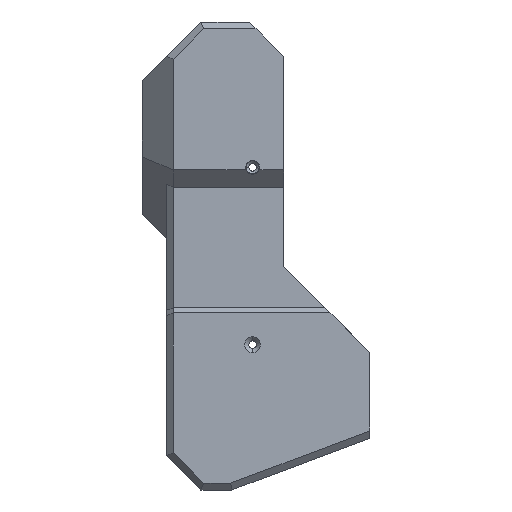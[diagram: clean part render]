
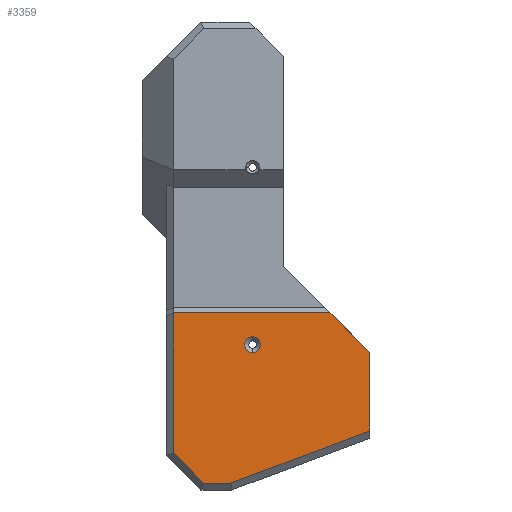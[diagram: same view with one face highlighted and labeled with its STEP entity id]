
A CAD part, left-side view. The second image highlights one B-rep face of the part: STEP entity #3359.
In plain terms, the highlighted planar face has unit normal (-1, 0, 0).
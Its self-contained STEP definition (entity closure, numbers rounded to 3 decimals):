
#851=DIRECTION('',(0.,-0.707,-0.707));
#852=VECTOR('',#851,16.263);
#853=CARTESIAN_POINT('',(-25.5,-30.5,-16.5));
#854=LINE('',#853,#852);
#855=DIRECTION('',(0.,-0.936,0.351));
#856=VECTOR('',#855,43.107);
#857=CARTESIAN_POINT('',(-25.5,-1.637,-66.));
#858=LINE('',#857,#856);
#859=DIRECTION('',(0.,1.,0.));
#860=VECTOR('',#859,7.809);
#861=CARTESIAN_POINT('',(-25.5,-1.637,-66.));
#862=LINE('',#861,#860);
#863=DIRECTION('',(0.,0.707,0.707));
#864=VECTOR('',#863,12.485);
#865=CARTESIAN_POINT('',(-25.5,6.172,-66.));
#866=LINE('',#865,#864);
#867=DIRECTION('',(0.,0.,1.));
#868=VECTOR('',#867,40.672);
#869=CARTESIAN_POINT('',(-25.5,15.,-57.172));
#870=LINE('',#869,#868);
#871=DIRECTION('',(0.,-1.,0.));
#872=VECTOR('',#871,45.5);
#873=CARTESIAN_POINT('',(-25.5,15.,-16.5));
#874=LINE('',#873,#872);
#875=CARTESIAN_POINT('',(-25.5,-8.,-25.78));
#876=DIRECTION('',(1.,0.,0.));
#877=DIRECTION('',(0.,0.,1.));
#878=AXIS2_PLACEMENT_3D('',#875,#876,#877);
#880=CARTESIAN_POINT('',(-25.5,-8.,-25.78));
#881=DIRECTION('',(1.,0.,0.));
#882=DIRECTION('',(0.,0.,-1.));
#883=AXIS2_PLACEMENT_3D('',#880,#881,#882);
#913=DIRECTION('',(0.,0.,-1.));
#914=VECTOR('',#913,22.864);
#915=CARTESIAN_POINT('',(-25.5,-42.,-28.));
#916=LINE('',#915,#914);
#1677=CARTESIAN_POINT('',(-25.5,15.,-16.5));
#1678=VERTEX_POINT('',#1677);
#1681=CARTESIAN_POINT('',(-25.5,15.,-57.172));
#1682=VERTEX_POINT('',#1681);
#1781=CARTESIAN_POINT('',(-25.5,-42.,-50.864));
#1783=VERTEX_POINT('',#1781);
#1787=CARTESIAN_POINT('',(-25.5,-1.637,-66.));
#1788=VERTEX_POINT('',#1787);
#1790=CARTESIAN_POINT('',(-25.5,6.172,-66.));
#1792=VERTEX_POINT('',#1790);
#1829=CARTESIAN_POINT('',(-25.5,-30.5,-16.5));
#1831=VERTEX_POINT('',#1829);
#1835=CARTESIAN_POINT('',(-25.5,-42.,-28.));
#1836=VERTEX_POINT('',#1835);
#2043=CARTESIAN_POINT('',(-25.5,-8.,-23.48));
#2044=CARTESIAN_POINT('',(-25.5,-8.,-28.08));
#2045=VERTEX_POINT('',#2043);
#2046=VERTEX_POINT('',#2044);
#3334=CARTESIAN_POINT('',(-25.5,17.,-10.));
#3335=DIRECTION('',(1.,0.,0.));
#3336=DIRECTION('',(0.,0.,-1.));
#3337=AXIS2_PLACEMENT_3D('',#3334,#3335,#3336);
#3338=PLANE('',#3337);
#3339=ORIENTED_EDGE('',*,*,#2330,.T.);
#3341=ORIENTED_EDGE('',*,*,#3340,.T.);
#3343=ORIENTED_EDGE('',*,*,#3342,.F.);
#3345=ORIENTED_EDGE('',*,*,#3344,.T.);
#3347=ORIENTED_EDGE('',*,*,#3346,.T.);
#3349=ORIENTED_EDGE('',*,*,#3348,.T.);
#3350=ORIENTED_EDGE('',*,*,#3326,.T.);
#3351=EDGE_LOOP('',(#3339,#3341,#3343,#3345,#3347,#3349,#3350));
#3352=FACE_OUTER_BOUND('',#3351,.F.);
#3354=ORIENTED_EDGE('',*,*,#3353,.F.);
#3356=ORIENTED_EDGE('',*,*,#3355,.F.);
#3357=EDGE_LOOP('',(#3354,#3356));
#3358=FACE_BOUND('',#3357,.F.);
#3359=ADVANCED_FACE('',(#3352,#3358),#3338,.F.);
#879=CIRCLE('',#878,2.3);
#884=CIRCLE('',#883,2.3);
#2330=EDGE_CURVE('',#1831,#1836,#854,.T.);
#3326=EDGE_CURVE('',#1678,#1831,#874,.T.);
#3340=EDGE_CURVE('',#1836,#1783,#916,.T.);
#3342=EDGE_CURVE('',#1788,#1783,#858,.T.);
#3344=EDGE_CURVE('',#1788,#1792,#862,.T.);
#3346=EDGE_CURVE('',#1792,#1682,#866,.T.);
#3348=EDGE_CURVE('',#1682,#1678,#870,.T.);
#3353=EDGE_CURVE('',#2045,#2046,#879,.T.);
#3355=EDGE_CURVE('',#2046,#2045,#884,.T.);
